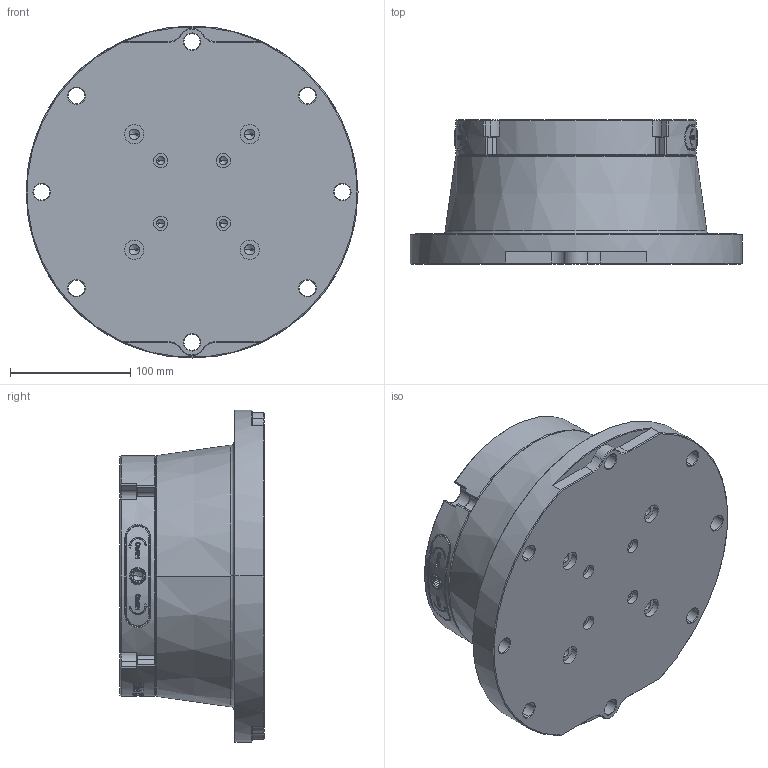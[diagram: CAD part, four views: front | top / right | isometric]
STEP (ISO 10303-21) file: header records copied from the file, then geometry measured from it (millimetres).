
FILE_DESCRIPTION((''),'2;1');
FILE_NAME('TS96-276_200_ASM','2025-08-08T10:34:55',('XF'),(''),'CREO PARAMETRIC BY PTC INC, 2023073','CREO PARAMETRIC BY PTC INC, 2023073','');
FILE_SCHEMA(('CONFIG_CONTROL_DESIGN'));
Length unit declared in the file: millimetre
Products named in the file (3): TS96-120_200; TS96-200; TS96-276_200_ASM
Assembly tree (2 placements, depth 2):
  TS96-276_200_ASM
    TS96-120_200
    TS96-200
Bounding box: 276 x 120 x 276 mm (x, y, z)
Volume: 4517221.1 mm3; surface area: 293871.9 mm2
Topology: 2 solids, 2 shells, 1547 faces, 4320 edges, 2874 vertices
Faces by surface type: plane 709, extrusion 358, cylinder 266, cone 184, bspline 20, torus 10
Entity records: 57045 total; most frequent: CARTESIAN_POINT 18445, ORIENTED_EDGE 8552, DIRECTION 6891, EDGE_CURVE 4276, VERTEX_POINT 2874, VECTOR 2643, LINE 2285, AXIS2_PLACEMENT_3D 2124
